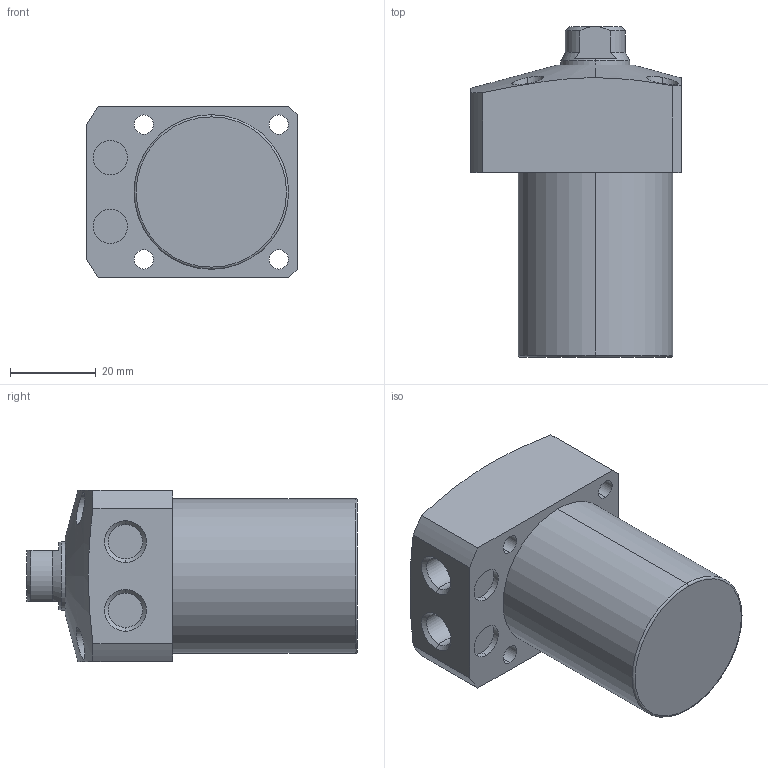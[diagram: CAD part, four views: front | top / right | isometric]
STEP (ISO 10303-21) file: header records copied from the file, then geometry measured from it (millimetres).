
FILE_DESCRIPTION (( 'STEP AP203' ), '1' );
FILE_NAME ('CLL-036CA-035.STEP', '2020-01-03T12:28:02', ( '' ), ( '' ), 'SwSTEP 2.0', 'SolidWorks 2015', '' );
FILE_SCHEMA (( 'CONFIG_CONTROL_DESIGN' ));
Length unit declared in the file: millimetre
Products named in the file (1): CLL-036CA-035
Bounding box: 49 x 77 x 40 mm (x, y, z)
Volume: 85211.1 mm3; surface area: 15038.7 mm2
Topology: 1 solids, 1 shells, 72 faces, 166 edges, 105 vertices
Faces by surface type: cylinder 34, plane 22, cone 14, torus 2
Entity records: 2453 total; most frequent: CARTESIAN_POINT 708, DIRECTION 364, ORIENTED_EDGE 328, EDGE_CURVE 164, AXIS2_PLACEMENT_3D 151, VERTEX_POINT 105, EDGE_LOOP 91, CIRCLE 78
